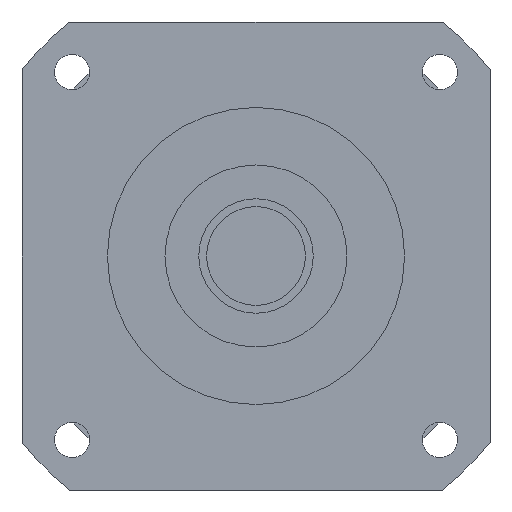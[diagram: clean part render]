
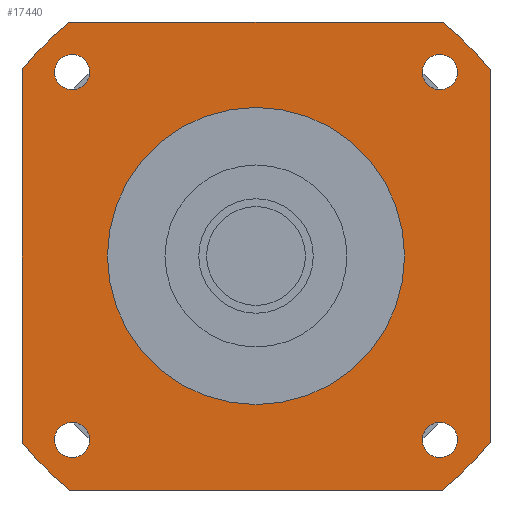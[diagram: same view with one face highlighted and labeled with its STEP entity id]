
A CAD part, left-side view. The second image highlights one B-rep face of the part: STEP entity #17440.
In plain terms, the highlighted planar face has unit normal (-1, 0, 0) as drawn and (0, 0, -1) by its records, which use the part's own axes.
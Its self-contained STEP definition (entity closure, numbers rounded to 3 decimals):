
#13100=CARTESIAN_POINT('',(90.,71.589,-91.7));
#13110=VERTEX_POINT('',#13100);
#13160=CARTESIAN_POINT('',(90.,90.,-91.7));
#13170=DIRECTION('',(0.,-1.,0.));
#13180=VECTOR('',#13170,1000.);
#13190=LINE('',#13160,#13180);
#13200=CARTESIAN_POINT('',(90.,-71.589,-91.7));
#13210=VERTEX_POINT('',#13200);
#13220=EDGE_CURVE('',#13110,#13210,#13190,.T.);
#13610=CARTESIAN_POINT('',(63.961,-70.711,-91.7));
#13620=VERTEX_POINT('',#13610);
#13650=CARTESIAN_POINT('',(70.711,-70.711,-91.7));
#13660=DIRECTION('',(0.,0.,-1.));
#13670=DIRECTION('',(1.,0.,0.));
#13680=AXIS2_PLACEMENT_3D('',#13650,#13660,#13670);
#13690=CIRCLE('',#13680,6.75);
#13700=CARTESIAN_POINT('',(77.461,-70.711,-91.7));
#13710=VERTEX_POINT('',#13700);
#13720=EDGE_CURVE('',#13710,#13620,#13690,.T.);
#15960=CARTESIAN_POINT('',(70.711,63.961,-91.7));
#15970=VERTEX_POINT('',#15960);
#16000=CARTESIAN_POINT('',(70.711,70.711,-91.7));
#16010=DIRECTION('',(0.,0.,-1.));
#16020=DIRECTION('',(0.,1.,0.));
#16030=AXIS2_PLACEMENT_3D('',#16000,#16010,#16020);
#16040=CIRCLE('',#16030,6.75);
#16050=CARTESIAN_POINT('',(70.711,77.461,-91.7));
#16060=VERTEX_POINT('',#16050);
#16070=EDGE_CURVE('',#16060,#15970,#16040,.T.);
#16190=CARTESIAN_POINT('',(90.,90.,-91.7));
#16200=DIRECTION('',(0.,0.,-1.));
#16210=DIRECTION('',(1.,0.,0.));
#16220=AXIS2_PLACEMENT_3D('',#16190,#16200,#16210);
#16230=PLANE('',#16220);
#16240=CARTESIAN_POINT('',(-70.711,-70.711,-91.7));
#16250=DIRECTION('',(0.,0.,-1.));
#16260=DIRECTION('',(0.,-1.,0.));
#16270=AXIS2_PLACEMENT_3D('',#16240,#16250,#16260);
#16280=CIRCLE('',#16270,6.75);
#16290=CARTESIAN_POINT('',(-70.711,-77.461,-91.7));
#16300=VERTEX_POINT('',#16290);
#16310=CARTESIAN_POINT('',(-70.711,-63.961,-91.7));
#16320=VERTEX_POINT('',#16310);
#16330=EDGE_CURVE('',#16300,#16320,#16280,.T.);
#16340=ORIENTED_EDGE('',*,*,#16330,.F.);
#16350=EDGE_CURVE('',#16320,#16300,#16280,.T.);
#16360=ORIENTED_EDGE('',*,*,#16350,.F.);
#16370=EDGE_LOOP('',(#16360,#16340));
#16380=FACE_BOUND('',#16370,.T.);
#16390=CARTESIAN_POINT('',(-70.711,70.711,-91.7));
#16400=DIRECTION('',(0.,0.,-1.));
#16410=DIRECTION('',(-1.,0.,0.));
#16420=AXIS2_PLACEMENT_3D('',#16390,#16400,#16410);
#16430=CIRCLE('',#16420,6.75);
#16440=CARTESIAN_POINT('',(-77.461,70.711,-91.7));
#16450=VERTEX_POINT('',#16440);
#16460=CARTESIAN_POINT('',(-63.961,70.711,-91.7));
#16470=VERTEX_POINT('',#16460);
#16480=EDGE_CURVE('',#16450,#16470,#16430,.T.);
#16490=ORIENTED_EDGE('',*,*,#16480,.F.);
#16500=EDGE_CURVE('',#16470,#16450,#16430,.T.);
#16510=ORIENTED_EDGE('',*,*,#16500,.F.);
#16520=EDGE_LOOP('',(#16510,#16490));
#16530=FACE_BOUND('',#16520,.T.);
#16540=ORIENTED_EDGE('',*,*,#16070,.F.);
#16550=EDGE_CURVE('',#15970,#16060,#16040,.T.);
#16560=ORIENTED_EDGE('',*,*,#16550,.F.);
#16570=EDGE_LOOP('',(#16560,#16540));
#16580=FACE_BOUND('',#16570,.T.);
#16590=CARTESIAN_POINT('',(0.,0.,
-91.7));
#16600=DIRECTION('',(0.,0.,1.));
#16610=DIRECTION('',(0.,1.,0.));
#16620=AXIS2_PLACEMENT_3D('',#16590,#16600,#16610);
#16630=CIRCLE('',#16620,57.15);
#16640=CARTESIAN_POINT('',(-57.15,0.,-91.7));
#16650=VERTEX_POINT('',#16640);
#16660=CARTESIAN_POINT('',(57.15,0.,-91.7));
#16670=VERTEX_POINT('',#16660);
#16680=EDGE_CURVE('',#16650,#16670,#16630,.T.);
#16690=ORIENTED_EDGE('',*,*,#16680,.T.);
#16700=CARTESIAN_POINT('',(0.,57.15,-91.7));
#16710=VERTEX_POINT('',#16700);
#16720=EDGE_CURVE('',#16710,#16650,#16630,.T.);
#16730=ORIENTED_EDGE('',*,*,#16720,.T.);
#16740=EDGE_CURVE('',#16670,#16710,#16630,.T.);
#16750=ORIENTED_EDGE('',*,*,#16740,.T.);
#16760=EDGE_LOOP('',(#16750,#16730,#16690));
#16770=FACE_BOUND('',#16760,.T.);
#16780=CARTESIAN_POINT('',(-90.,90.,-91.7));
#16790=DIRECTION('',(1.,0.,0.));
#16800=VECTOR('',#16790,1000.);
#16810=LINE('',#16780,#16800);
#16820=CARTESIAN_POINT('',(-71.589,90.,-91.7));
#16830=VERTEX_POINT('',#16820);
#16840=CARTESIAN_POINT('',(71.589,90.,-91.7));
#16850=VERTEX_POINT('',#16840);
#16860=EDGE_CURVE('',#16830,#16850,#16810,.T.);
#16870=ORIENTED_EDGE('',*,*,#16860,.T.);
#16880=CARTESIAN_POINT('',(0.,0.,
-91.7));
#16890=DIRECTION('',(0.,0.,-1.));
#16900=DIRECTION('',(1.,0.,0.));
#16910=AXIS2_PLACEMENT_3D('',#16880,#16890,#16900);
#16920=CIRCLE('',#16910,115.);
#16930=CARTESIAN_POINT('',(-90.,71.589,-91.7));
#16940=VERTEX_POINT('',#16930);
#16950=EDGE_CURVE('',#16940,#16830,#16920,.T.);
#16960=ORIENTED_EDGE('',*,*,#16950,.T.);
#16970=CARTESIAN_POINT('',(-90.,-90.,-91.7));
#16980=DIRECTION('',(0.,1.,0.));
#16990=VECTOR('',#16980,1000.);
#17000=LINE('',#16970,#16990);
#17010=CARTESIAN_POINT('',(-90.,-71.589,-91.7));
#17020=VERTEX_POINT('',#17010);
#17030=EDGE_CURVE('',#17020,#16940,#17000,.T.);
#17040=ORIENTED_EDGE('',*,*,#17030,.T.);
#17050=CARTESIAN_POINT('',(0.,0.,
-91.7));
#17060=DIRECTION('',(0.,0.,-1.));
#17070=DIRECTION('',(1.,0.,0.));
#17080=AXIS2_PLACEMENT_3D('',#17050,#17060,#17070);
#17090=CIRCLE('',#17080,115.);
#17100=CARTESIAN_POINT('',(-71.589,-90.,-91.7));
#17110=VERTEX_POINT('',#17100);
#17120=EDGE_CURVE('',#17110,#17020,#17090,.T.);
#17130=ORIENTED_EDGE('',*,*,#17120,.T.);
#17140=CARTESIAN_POINT('',(90.,-90.,-91.7));
#17150=DIRECTION('',(-1.,0.,0.));
#17160=VECTOR('',#17150,1000.);
#17170=LINE('',#17140,#17160);
#17180=CARTESIAN_POINT('',(71.589,-90.,-91.7));
#17190=VERTEX_POINT('',#17180);
#17200=EDGE_CURVE('',#17190,#17110,#17170,.T.);
#17210=ORIENTED_EDGE('',*,*,#17200,.T.);
#17220=CARTESIAN_POINT('',(0.,0.,
-91.7));
#17230=DIRECTION('',(0.,0.,-1.));
#17240=DIRECTION('',(1.,0.,0.));
#17250=AXIS2_PLACEMENT_3D('',#17220,#17230,#17240);
#17260=CIRCLE('',#17250,115.);
#17270=EDGE_CURVE('',#13210,#17190,#17260,.T.);
#17280=ORIENTED_EDGE('',*,*,#17270,.T.);
#17290=ORIENTED_EDGE('',*,*,#13220,.T.);
#17300=CARTESIAN_POINT('',(0.,0.,
-91.7));
#17310=DIRECTION('',(0.,0.,-1.));
#17320=DIRECTION('',(1.,0.,0.));
#17330=AXIS2_PLACEMENT_3D('',#17300,#17310,#17320);
#17340=CIRCLE('',#17330,115.);
#17350=EDGE_CURVE('',#16850,#13110,#17340,.T.);
#17360=ORIENTED_EDGE('',*,*,#17350,.T.);
#17370=EDGE_LOOP('',(#17360,#17290,#17280,#17210,#17130,#17040,#16960,
#16870));
#17380=FACE_OUTER_BOUND('',#17370,.T.);
#17390=ORIENTED_EDGE('',*,*,#13720,.F.);
#17400=EDGE_CURVE('',#13620,#13710,#13690,.T.);
#17410=ORIENTED_EDGE('',*,*,#17400,.F.);
#17420=EDGE_LOOP('',(#17410,#17390));
#17430=FACE_BOUND('',#17420,.T.);
#17440=ADVANCED_FACE('',(#16380,#16530,#16580,#16770,#17380,#17430),
#16230,.T.);
